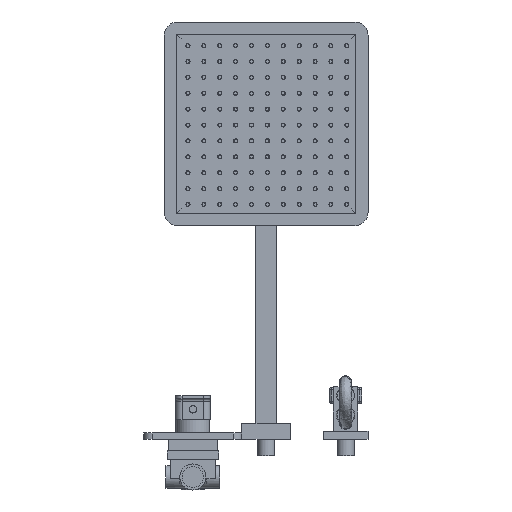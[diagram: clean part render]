
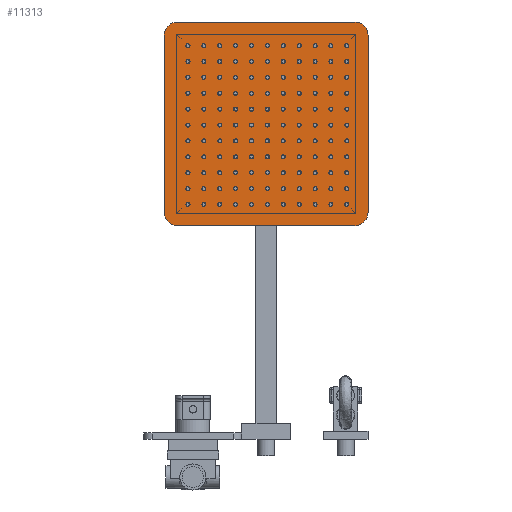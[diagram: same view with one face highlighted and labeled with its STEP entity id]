
A CAD part, front view. The second image highlights one B-rep face of the part: STEP entity #11313.
In plain terms, the highlighted planar face has unit normal (0, -1, 0).
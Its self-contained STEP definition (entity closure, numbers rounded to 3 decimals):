
#813=LINE('',#19460,#1677);
#819=LINE('',#19475,#1683);
#821=LINE('',#19481,#1685);
#834=LINE('',#19543,#1698);
#1677=VECTOR('',#14661,10.);
#1683=VECTOR('',#14677,10.);
#1685=VECTOR('',#14685,10.);
#1698=VECTOR('',#14756,10.);
#2606=FACE_OUTER_BOUND('',#3435,.T.);
#3435=EDGE_LOOP('',(#8281,#8282,#8283,#8284,#8285,#8286,#8287,#8288));
#4217=CIRCLE('',#12617,16.);
#4222=CIRCLE('',#12625,16.);
#4223=CIRCLE('',#12627,16.);
#4224=CIRCLE('',#12630,16.);
#4990=VERTEX_POINT('',#19428);
#4991=VERTEX_POINT('',#19429);
#5004=VERTEX_POINT('',#19459);
#5005=VERTEX_POINT('',#19463);
#5006=VERTEX_POINT('',#19467);
#5007=VERTEX_POINT('',#19468);
#5008=VERTEX_POINT('',#19473);
#5009=VERTEX_POINT('',#19477);
#6240=EDGE_CURVE('',#4990,#4991,#4217,.T.);
#6255=EDGE_CURVE('',#5004,#4991,#813,.T.);
#6257=EDGE_CURVE('',#5004,#5005,#4222,.T.);
#6259=EDGE_CURVE('',#5006,#5007,#4223,.T.);
#6263=EDGE_CURVE('',#5006,#5008,#819,.T.);
#6264=EDGE_CURVE('',#5009,#5008,#4224,.T.);
#6266=EDGE_CURVE('',#5009,#5005,#821,.T.);
#6295=EDGE_CURVE('',#4990,#5007,#834,.T.);
#8281=ORIENTED_EDGE('',*,*,#6240,.F.);
#8282=ORIENTED_EDGE('',*,*,#6295,.T.);
#8283=ORIENTED_EDGE('',*,*,#6259,.F.);
#8284=ORIENTED_EDGE('',*,*,#6263,.T.);
#8285=ORIENTED_EDGE('',*,*,#6264,.F.);
#8286=ORIENTED_EDGE('',*,*,#6266,.T.);
#8287=ORIENTED_EDGE('',*,*,#6257,.F.);
#8288=ORIENTED_EDGE('',*,*,#6255,.T.);
#10638=PLANE('',#12662);
#11313=ADVANCED_FACE('',(#2606),#10638,.T.);
#12617=AXIS2_PLACEMENT_3D('',#19430,#14637,#14638);
#12625=AXIS2_PLACEMENT_3D('',#19464,#14665,#14666);
#12627=AXIS2_PLACEMENT_3D('',#19469,#14670,#14671);
#12630=AXIS2_PLACEMENT_3D('',#19478,#14680,#14681);
#12662=AXIS2_PLACEMENT_3D('',#19545,#14759,#14760);
#14637=DIRECTION('center_axis',(0.,1.,0.));
#14638=DIRECTION('ref_axis',(-0.707,0.,0.707));
#14661=DIRECTION('',(-1.,0.,0.));
#14665=DIRECTION('center_axis',(0.,1.,0.));
#14666=DIRECTION('ref_axis',(0.707,0.,0.707));
#14670=DIRECTION('center_axis',(0.,1.,0.));
#14671=DIRECTION('ref_axis',(-0.707,0.,-0.707));
#14677=DIRECTION('',(1.,0.,0.));
#14680=DIRECTION('center_axis',(0.,1.,0.));
#14681=DIRECTION('ref_axis',(0.707,0.,-0.707));
#14685=DIRECTION('',(0.,0.,1.));
#14756=DIRECTION('',(0.,0.,-1.));
#14759=DIRECTION('center_axis',(0.,-1.,0.));
#14760=DIRECTION('ref_axis',(0.,0.,-1.));
#19428=CARTESIAN_POINT('',(-125.,-5.,109.));
#19429=CARTESIAN_POINT('',(-109.,-5.,125.));
#19430=CARTESIAN_POINT('Origin',(-109.,-5.,109.));
#19459=CARTESIAN_POINT('',(109.,-5.,125.));
#19460=CARTESIAN_POINT('',(-125.,-5.,125.));
#19463=CARTESIAN_POINT('',(125.,-5.,109.));
#19464=CARTESIAN_POINT('Origin',(109.,-5.,109.));
#19467=CARTESIAN_POINT('',(-109.,-5.,-125.));
#19468=CARTESIAN_POINT('',(-125.,-5.,-109.));
#19469=CARTESIAN_POINT('Origin',(-109.,-5.,-109.));
#19473=CARTESIAN_POINT('',(109.,-5.,-125.));
#19475=CARTESIAN_POINT('',(125.,-5.,-125.));
#19477=CARTESIAN_POINT('',(125.,-5.,-109.));
#19478=CARTESIAN_POINT('Origin',(109.,-5.,-109.));
#19481=CARTESIAN_POINT('',(125.,-5.,125.));
#19543=CARTESIAN_POINT('',(-125.,-5.,-125.));
#19545=CARTESIAN_POINT('Origin',(0.,-5.,0.));
